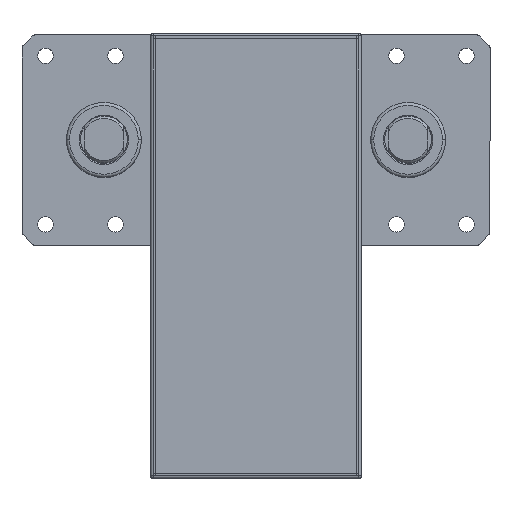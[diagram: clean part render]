
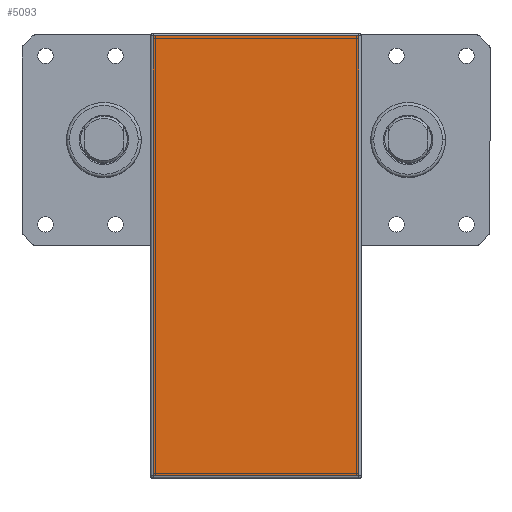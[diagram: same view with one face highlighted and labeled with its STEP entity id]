
A CAD part, top view. The second image highlights one B-rep face of the part: STEP entity #5093.
In plain terms, the highlighted planar face has unit normal (0, 0, 1).
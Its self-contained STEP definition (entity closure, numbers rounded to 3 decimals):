
#393 = VERTEX_POINT ( 'NONE', #25441 ) ;
#863 = VERTEX_POINT ( 'NONE', #38645 ) ;
#2921 = DIRECTION ( 'NONE',  ( 0., -1., 0. ) ) ;
#4194 = VECTOR ( 'NONE', #16868, 1000. ) ;
#5093 = ADVANCED_FACE ( 'NONE', ( #12308 ), #35600, .T. ) ;
#5517 = ORIENTED_EDGE ( 'NONE', *, *, #35140, .T. ) ;
#8868 = LINE ( 'NONE', #42566, #15650 ) ;
#9033 = DIRECTION ( 'NONE',  ( 0., 1., 0. ) ) ;
#10004 = CARTESIAN_POINT ( 'NONE',  ( 44., -144., 271. ) ) ;
#10625 = ORIENTED_EDGE ( 'NONE', *, *, #23164, .T. ) ;
#12308 = FACE_OUTER_BOUND ( 'NONE', #16419, .T. ) ;
#13167 = VECTOR ( 'NONE', #2921, 1000. ) ;
#13488 = CARTESIAN_POINT ( 'NONE',  ( -44., 44., 271. ) ) ;
#14081 = LINE ( 'NONE', #13488, #4194 ) ;
#14697 = LINE ( 'NONE', #10004, #23592 ) ;
#15038 = AXIS2_PLACEMENT_3D ( 'NONE', #35464, #42309, #22367 ) ;
#15650 = VECTOR ( 'NONE', #9033, 1000. ) ;
#16419 = EDGE_LOOP ( 'NONE', ( #31867, #41633, #10625, #5517 ) ) ;
#16868 = DIRECTION ( 'NONE',  ( -1., 0., 0. ) ) ;
#18709 = CARTESIAN_POINT ( 'NONE',  ( 44., -144., 271. ) ) ;
#22367 = DIRECTION ( 'NONE',  ( 1., 0., 0. ) ) ;
#23046 = VERTEX_POINT ( 'NONE', #18709 ) ;
#23164 = EDGE_CURVE ( 'NONE', #23046, #863, #8868, .T. ) ;
#23592 = VECTOR ( 'NONE', #30016, 1000. ) ;
#25441 = CARTESIAN_POINT ( 'NONE',  ( -44., 44., 271. ) ) ;
#27811 = EDGE_CURVE ( 'NONE', #393, #40909, #39795, .T. ) ;
#29569 = CARTESIAN_POINT ( 'NONE',  ( -44., -144., 271. ) ) ;
#30016 = DIRECTION ( 'NONE',  ( 1., 0., 0. ) ) ;
#30346 = CARTESIAN_POINT ( 'NONE',  ( -44., -144., 271. ) ) ;
#31867 = ORIENTED_EDGE ( 'NONE', *, *, #27811, .T. ) ;
#35140 = EDGE_CURVE ( 'NONE', #863, #393, #14081, .T. ) ;
#35464 = CARTESIAN_POINT ( 'NONE',  ( -44., -144., 271. ) ) ;
#35600 = PLANE ( 'NONE',  #15038 ) ;
#38645 = CARTESIAN_POINT ( 'NONE',  ( 44., 44., 271. ) ) ;
#39766 = EDGE_CURVE ( 'NONE', #40909, #23046, #14697, .T. ) ;
#39795 = LINE ( 'NONE', #29569, #13167 ) ;
#40909 = VERTEX_POINT ( 'NONE', #30346 ) ;
#41633 = ORIENTED_EDGE ( 'NONE', *, *, #39766, .T. ) ;
#42309 = DIRECTION ( 'NONE',  ( 0., 0., 1. ) ) ;
#42566 = CARTESIAN_POINT ( 'NONE',  ( 44., 44., 271. ) ) ;
